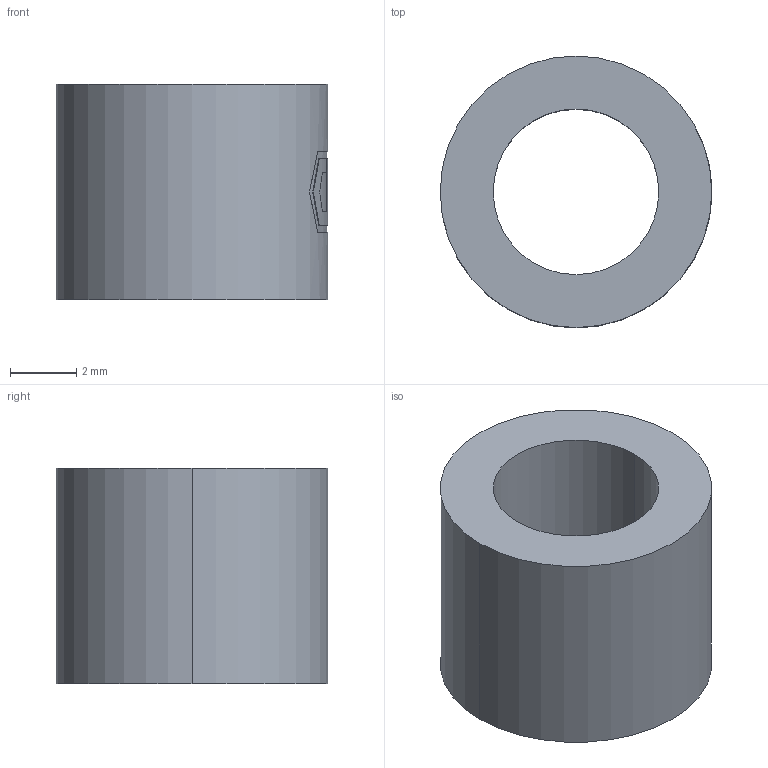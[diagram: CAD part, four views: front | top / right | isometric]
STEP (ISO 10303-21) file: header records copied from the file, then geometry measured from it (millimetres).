
FILE_DESCRIPTION (( 'STEP AP203' ), '1' );
FILE_NAME ('WJ-DM 12-2.STEP', '2007-03-01T13:59:21', ( ' ' ), ( '' ), 'SwSTEP 2.0', 'SolidWorks 2005278', '' );
FILE_SCHEMA (( 'CONFIG_CONTROL_DESIGN' ));
Length unit declared in the file: millimetre
Products named in the file (1): WJ-DM 12-2
Bounding box: 8.2 x 8.2 x 6.5 mm (x, y, z)
Volume: 215.5 mm3; surface area: 336.6 mm2
Topology: 1 solids, 1 shells, 43 faces, 117 edges, 78 vertices
Faces by surface type: plane 36, cylinder 7
Entity records: 1474 total; most frequent: CARTESIAN_POINT 305, ORIENTED_EDGE 234, DIRECTION 221, EDGE_CURVE 117, AXIS2_PLACEMENT_3D 80, VERTEX_POINT 78, VECTOR 61, LINE 61
